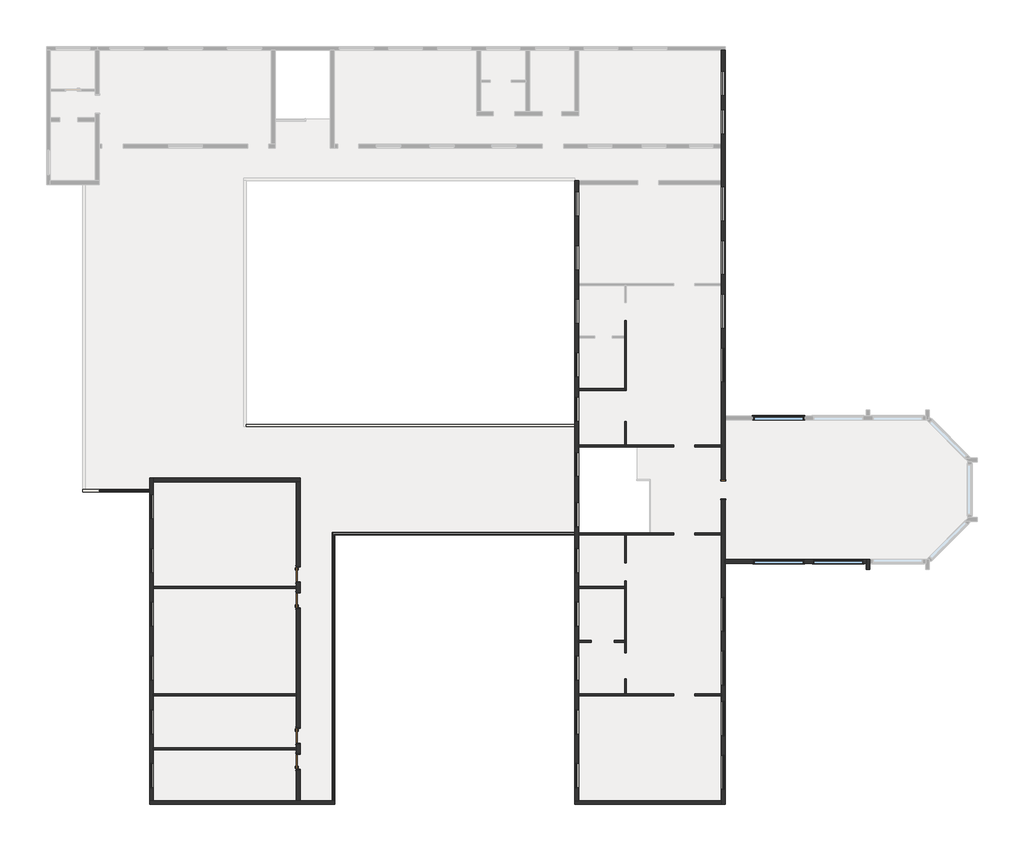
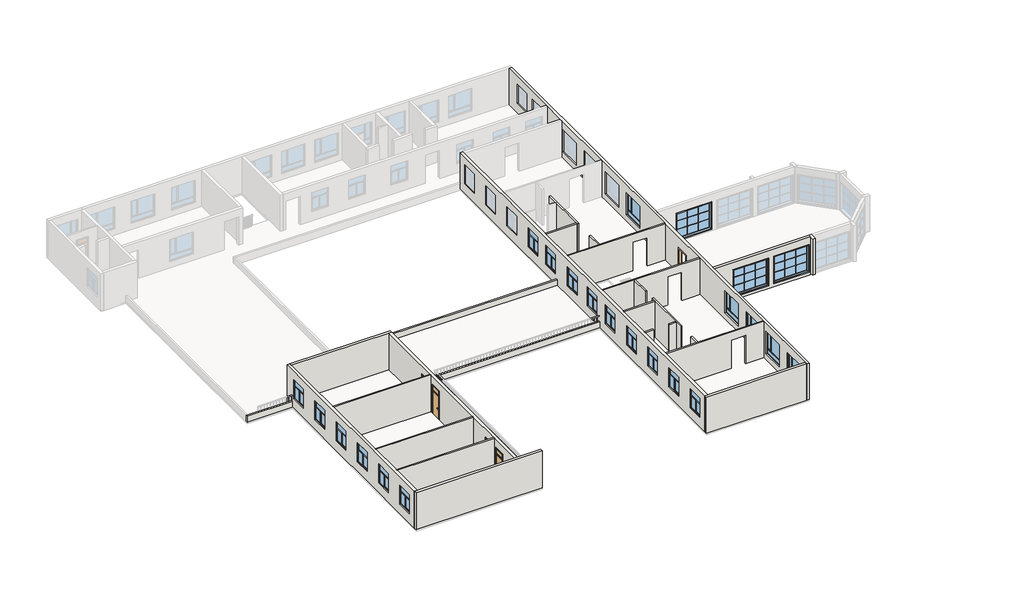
# One storey, part 1 of 4: 28 walls, 23 windows, 5 doors.
"""IFC4 building model written with IfcOpenShell, lengths in millimetres."""

from ifc_helpers import new_model, si_unit, frame, origin, place, context, project, spatial, polyline, outline, extrude, faceted_brep, transform, mapped, element, save
from components import door_b620a7e4, m1_645588ba, m1_8023598c, c1_07d47191, c2_05897f81, c3_245fb3e4

model = new_model("IFC4")

# Units and contexts
model_context = context("Model", 3, world=origin())
ifc_project = project(units=[si_unit("LENGTHUNIT", "METRE", prefix="MILLI")], contexts=[model_context])

# Site, building, storey
site = spatial("IfcSite", under=ifc_project)
building = spatial("IfcBuilding", under=site)
storey = spatial("IfcBuildingStorey", under=building, Name="二层", Elevation=3600.0)

# Doors
placement = place(None, origin())
door_shape = door_b620a7e4(model_context)
element("IfcDoor", 1, ObjectType="门洞 : MD2(洞口）", at=placement, inside=storey, context=model_context, shape_type="MappedRepresentation", body=[
    mapped(door_shape, transform((6129.7168608, -8520.7838385, 3600.0), x_axis=(0.0, 1.0, 0.0), y_axis=(-1.0, 0.0, 0.0), z_axis=(0.0, 0.0, 1.0))),
])
m1_shape = m1_645588ba(model_context)
element("IfcDoor", 2, ObjectType="单嵌板木门 13 : M1", at=placement, inside=storey, context=model_context, shape_type="MappedRepresentation", body=[
    mapped(m1_shape, transform((-19950.2831392, -25213.7838385, 3600.0), x_axis=(0.0, 1.0, 0.0), y_axis=(-1.0, 0.0, 0.0), z_axis=(0.0, 0.0, 1.0))),
])
element("IfcDoor", 3, ObjectType="单嵌板木门 13 : M1", at=placement, inside=storey, context=model_context, shape_type="MappedRepresentation", body=[
    mapped(m1_shape, transform((-19950.2831392, -15313.7838385, 3600.0), x_axis=(0.0, 1.0, 0.0), y_axis=(-1.0, 0.0, 0.0), z_axis=(0.0, 0.0, 1.0))),
])
m1_2_shape = m1_8023598c(model_context)
element("IfcDoor", 4, ObjectType="单嵌板木门 13 : M1", at=placement, inside=storey, context=model_context, shape_type="MappedRepresentation", body=[
    mapped(m1_2_shape, transform((-19950.2831392, -23613.7838385, 3600.0), x_axis=(0.0, -1.0, 0.0), y_axis=(1.0, 0.0, 0.0), z_axis=(0.0, 0.0, 1.0))),
])
element("IfcDoor", 5, ObjectType="单嵌板木门 13 : M1", at=placement, inside=storey, context=model_context, shape_type="MappedRepresentation", body=[
    mapped(m1_2_shape, transform((-19950.2831392, -13713.7838385, 3600.0), x_axis=(0.0, -1.0, 0.0), y_axis=(1.0, 0.0, 0.0), z_axis=(0.0, 0.0, 1.0))),
])

# Walls
element("IfcWall", 6, ObjectType="墙", at=placement, inside=storey, context=model_context, shape_type="Brep", body=[
    faceted_brep([(-29070.2831392, -27833.7838385, 3600.0), (-17710.2831392, -27833.7838385, 3600.0), (-17710.2831392, -27833.7838385, 7100.0), (-29070.2831392, -27833.7838385, 7100.0), (-17710.2831392, -27593.7838385, 3600.0), (-19830.2831392, -27593.7838385, 3600.0), (-20070.2831392, -27593.7838385, 3600.0), (-28830.2831392, -27593.7838385, 3600.0), (-29070.2831392, -27593.7838385, 3600.0), (-29070.2831392, -27593.7838385, 7100.0), (-28830.2831392, -27593.7838385, 7100.0), (-17710.2831392, -27593.7838385, 7100.0)], [[[0, 1, 2, 3]], [[4, 5, 6, 7, 8, 9, 10, 11]], [[1, 0, 8, 7, 6, 5, 4]], [[1, 4, 11, 2]], [[8, 0, 3, 9]], [[3, 2, 11, 10, 9]]]),
])
element("IfcWall", 7, ObjectType="墙", at=placement, inside=storey, context=model_context, shape_type="Brep", body=[
    faceted_brep([(-28830.2831392, -27593.7838385, 3600.0), (-28830.2831392, -24473.7838385, 3600.0), (-28830.2831392, -24353.7838385, 3600.0), (-28830.2831392, -21173.7838385, 3600.0), (-28830.2831392, -21053.7838385, 3600.0), (-28830.2831392, -14573.7838385, 3600.0), (-28830.2831392, -14453.7838385, 3600.0), (-28830.2831392, -8033.7838385, 3600.0), (-28830.2831392, -7793.7838385, 3600.0), (-28830.2831392, -7793.7838385, 7050.0), (-28830.2831392, -7793.7838385, 7100.0), (-28830.2831392, -27593.7838385, 7100.0), (-28830.2831392, -26813.7838385, 4500.0), (-28830.2831392, -26813.7838385, 6300.0), (-28830.2831392, -25313.7838385, 6300.0), (-28830.2831392, -25313.7838385, 4500.0), (-28830.2831392, -23513.7838385, 4500.0), (-28830.2831392, -23513.7838385, 6300.0), (-28830.2831392, -22013.7838385, 6300.0), (-28830.2831392, -22013.7838385, 4500.0), (-28830.2831392, -20213.7838385, 4500.0), (-28830.2831392, -20213.7838385, 6300.0), (-28830.2831392, -18713.7838385, 6300.0), (-28830.2831392, -18713.7838385, 4500.0), (-28830.2831392, -16913.7838385, 4500.0), (-28830.2831392, -16913.7838385, 6300.0), (-28830.2831392, -15413.7838385, 6300.0), (-28830.2831392, -15413.7838385, 4500.0), (-28830.2831392, -13613.7838385, 4500.0), (-28830.2831392, -13613.7838385, 6300.0), (-28830.2831392, -12113.7838385, 6300.0), (-28830.2831392, -12113.7838385, 4500.0), (-28830.2831392, -10313.7838385, 4500.0), (-28830.2831392, -10313.7838385, 6300.0), (-28830.2831392, -8813.7838385, 6300.0), (-28830.2831392, -8813.7838385, 4500.0), (-29070.2831392, -7793.7838385, 3600.0), (-29070.2831392, -8033.7838385, 3600.0), (-29070.2831392, -27593.7838385, 3600.0), (-29070.2831392, -27593.7838385, 7050.0), (-29070.2831392, -27593.7838385, 7100.0), (-29070.2831392, -7793.7838385, 7100.0), (-29070.2831392, -26813.7838385, 6300.0), (-29070.2831392, -26813.7838385, 4500.0), (-29070.2831392, -25313.7838385, 4500.0), (-29070.2831392, -25313.7838385, 6300.0), (-29070.2831392, -23513.7838385, 6300.0), (-29070.2831392, -23513.7838385, 4500.0), (-29070.2831392, -22013.7838385, 4500.0), (-29070.2831392, -22013.7838385, 6300.0), (-29070.2831392, -20213.7838385, 6300.0), (-29070.2831392, -20213.7838385, 4500.0), (-29070.2831392, -18713.7838385, 4500.0), (-29070.2831392, -18713.7838385, 6300.0), (-29070.2831392, -16913.7838385, 6300.0), (-29070.2831392, -16913.7838385, 4500.0), (-29070.2831392, -15413.7838385, 4500.0), (-29070.2831392, -15413.7838385, 6300.0), (-29070.2831392, -13613.7838385, 6300.0), (-29070.2831392, -13613.7838385, 4500.0), (-29070.2831392, -12113.7838385, 4500.0), (-29070.2831392, -12113.7838385, 6300.0), (-29070.2831392, -10313.7838385, 6300.0), (-29070.2831392, -10313.7838385, 4500.0), (-29070.2831392, -8813.7838385, 4500.0), (-29070.2831392, -8813.7838385, 6300.0)], [[[0, 1, 2, 3, 4, 5, 6, 7, 8, 9, 10, 11], [12, 13, 14, 15], [16, 17, 18, 19], [20, 21, 22, 23], [24, 25, 26, 27], [28, 29, 30, 31], [32, 33, 34, 35]], [[36, 37, 38, 39, 40, 41], [42, 43, 44, 45], [46, 47, 48, 49], [50, 51, 52, 53], [54, 55, 56, 57], [58, 59, 60, 61], [62, 63, 64, 65]], [[8, 7, 6, 5, 4, 3, 2, 1, 0, 38, 37, 36]], [[13, 12, 43, 42]], [[14, 13, 42, 45]], [[15, 14, 45, 44]], [[12, 15, 44, 43]], [[17, 16, 47, 46]], [[18, 17, 46, 49]], [[19, 18, 49, 48]], [[16, 19, 48, 47]], [[21, 20, 51, 50]], [[22, 21, 50, 53]], [[23, 22, 53, 52]], [[20, 23, 52, 51]], [[25, 24, 55, 54]], [[26, 25, 54, 57]], [[27, 26, 57, 56]], [[24, 27, 56, 55]], [[29, 28, 59, 58]], [[30, 29, 58, 61]], [[31, 30, 61, 60]], [[28, 31, 60, 59]], [[33, 32, 63, 62]], [[34, 33, 62, 65]], [[35, 34, 65, 64]], [[32, 35, 64, 63]], [[38, 0, 11, 40, 39]], [[8, 36, 41, 10, 9]], [[11, 10, 41, 40]]]),
])
element("IfcWall", 8, ObjectType="墙", at=placement, inside=storey, context=model_context, shape_type="Brep", body=[
    faceted_brep([(6249.7168608, -7920.7838385, 3600.0), (6249.7168608, 18456.2161615, 3600.0), (6249.7168608, 18456.2161615, 7050.0), (6249.7168608, -27833.7838385, 7050.0), (6249.7168608, -27833.7838385, 3600.0), (6249.7168608, -9120.7838385, 3600.0), (6249.7168608, -9120.7838385, 6000.0), (6249.7168608, -7920.7838385, 6000.0), (6249.7168608, 17176.2161615, 6300.0), (6249.7168608, 17176.2161615, 4500.0), (6249.7168608, 15676.2161615, 4500.0), (6249.7168608, 15676.2161615, 6300.0), (6249.7168608, 14826.2161615, 6300.0), (6249.7168608, 14826.2161615, 4500.0), (6249.7168608, 13326.2161615, 4500.0), (6249.7168608, 13326.2161615, 6300.0), (6249.7168608, -24813.7838385, 6300.0), (6249.7168608, -24813.7838385, 4200.0), (6249.7168608, -26913.7838385, 4200.0), (6249.7168608, -26913.7838385, 6300.0), (6249.7168608, -21513.7838385, 6300.0), (6249.7168608, -21513.7838385, 4200.0), (6249.7168608, -23613.7838385, 4200.0), (6249.7168608, -23613.7838385, 6300.0), (6249.7168608, -18413.7838385, 6300.0), (6249.7168608, -18413.7838385, 4200.0), (6249.7168608, -20513.7838385, 4200.0), (6249.7168608, -20513.7838385, 6300.0), (6249.7168608, -15113.7838385, 6300.0), (6249.7168608, -15113.7838385, 4200.0), (6249.7168608, -17213.7838385, 4200.0), (6249.7168608, -17213.7838385, 6300.0), (6249.7168608, 10086.2161615, 6300.0), (6249.7168608, 10086.2161615, 4200.0), (6249.7168608, 7986.2161615, 4200.0), (6249.7168608, 7986.2161615, 6300.0), (6249.7168608, 6786.2161615, 6300.0), (6249.7168608, 6786.2161615, 4200.0), (6249.7168608, 4686.2161615, 4200.0), (6249.7168608, 4686.2161615, 6300.0), (6249.7168608, 3486.2161615, 6300.0), (6249.7168608, 3486.2161615, 4200.0), (6249.7168608, 1386.2161615, 4200.0), (6249.7168608, 1386.2161615, 6300.0), (6249.7168608, 186.2161615, 6300.0), (6249.7168608, 186.2161615, 4200.0), (6249.7168608, -1913.7838385, 4200.0), (6249.7168608, -1913.7838385, 6300.0), (6009.7168608, 18456.2161615, 3600.0), (6009.7168608, 12696.2161615, 3600.0), (6009.7168608, 12456.2161615, 3600.0), (6009.7168608, 10466.2161615, 3600.0), (6009.7168608, 10226.2161615, 3600.0), (6009.7168608, 4146.2161615, 3600.0), (6009.7168608, 4026.2161615, 3600.0), (6009.7168608, -5753.7838385, 3600.0), (6009.7168608, -5873.7838385, 3600.0), (6009.7168608, -7920.7838385, 3600.0), (6009.7168608, -7920.7838385, 6000.0), (6009.7168608, -9120.7838385, 6000.0), (6009.7168608, -9120.7838385, 3600.0), (6009.7168608, -11153.7838385, 3600.0), (6009.7168608, -11273.7838385, 3600.0), (6009.7168608, -21053.7838385, 3600.0), (6009.7168608, -21173.7838385, 3600.0), (6009.7168608, -27593.7838385, 3600.0), (6009.7168608, -27833.7838385, 3600.0), (6009.7168608, -27833.7838385, 7050.0), (6009.7168608, -5873.7838385, 7050.0), (6009.7168608, -5753.7838385, 7050.0), (6009.7168608, 4026.2161615, 7050.0), (6009.7168608, 4146.2161615, 7050.0), (6009.7168608, 10226.2161615, 7050.0), (6009.7168608, 10466.2161615, 7050.0), (6009.7168608, 12456.2161615, 7050.0), (6009.7168608, 12696.2161615, 7050.0), (6009.7168608, 18456.2161615, 7050.0), (6009.7168608, 17176.2161615, 4500.0), (6009.7168608, 17176.2161615, 6300.0), (6009.7168608, 15676.2161615, 6300.0), (6009.7168608, 15676.2161615, 4500.0), (6009.7168608, 14826.2161615, 4500.0), (6009.7168608, 14826.2161615, 6300.0), (6009.7168608, 13326.2161615, 6300.0), (6009.7168608, 13326.2161615, 4500.0), (6009.7168608, -24813.7838385, 4200.0), (6009.7168608, -24813.7838385, 6300.0), (6009.7168608, -26913.7838385, 6300.0), (6009.7168608, -26913.7838385, 4200.0), (6009.7168608, -21513.7838385, 4200.0), (6009.7168608, -21513.7838385, 6300.0), (6009.7168608, -23613.7838385, 6300.0), (6009.7168608, -23613.7838385, 4200.0), (6009.7168608, -18413.7838385, 4200.0), (6009.7168608, -18413.7838385, 6300.0), (6009.7168608, -20513.7838385, 6300.0), (6009.7168608, -20513.7838385, 4200.0), (6009.7168608, -15113.7838385, 4200.0), (6009.7168608, -15113.7838385, 6300.0), (6009.7168608, -17213.7838385, 6300.0), (6009.7168608, -17213.7838385, 4200.0), (6009.7168608, 10086.2161615, 4200.0), (6009.7168608, 10086.2161615, 6300.0), (6009.7168608, 7986.2161615, 6300.0), (6009.7168608, 7986.2161615, 4200.0), (6009.7168608, 6786.2161615, 4200.0), (6009.7168608, 6786.2161615, 6300.0), (6009.7168608, 4686.2161615, 6300.0), (6009.7168608, 4686.2161615, 4200.0), (6009.7168608, 3486.2161615, 4200.0), (6009.7168608, 3486.2161615, 6300.0), (6009.7168608, 1386.2161615, 6300.0), (6009.7168608, 1386.2161615, 4200.0), (6009.7168608, 186.2161615, 4200.0), (6009.7168608, 186.2161615, 6300.0), (6009.7168608, -1913.7838385, 6300.0), (6009.7168608, -1913.7838385, 4200.0)], [[[0, 1, 2, 3, 4, 5, 6, 7], [8, 9, 10, 11], [12, 13, 14, 15], [16, 17, 18, 19], [20, 21, 22, 23], [24, 25, 26, 27], [28, 29, 30, 31], [32, 33, 34, 35], [36, 37, 38, 39], [40, 41, 42, 43], [44, 45, 46, 47]], [[48, 49, 50, 51, 52, 53, 54, 55, 56, 57, 58, 59, 60, 61, 62, 63, 64, 65, 66, 67, 68, 69, 70, 71, 72, 73, 74, 75, 76], [77, 78, 79, 80], [81, 82, 83, 84], [85, 86, 87, 88], [89, 90, 91, 92], [93, 94, 95, 96], [97, 98, 99, 100], [101, 102, 103, 104], [105, 106, 107, 108], [109, 110, 111, 112], [113, 114, 115, 116]], [[4, 66, 65, 64, 63, 62, 61, 60, 5]], [[48, 1, 0, 57, 56, 55, 54, 53, 52, 51, 50, 49]], [[78, 77, 9, 8]], [[79, 78, 8, 11]], [[80, 79, 11, 10]], [[77, 80, 10, 9]], [[82, 81, 13, 12]], [[83, 82, 12, 15]], [[84, 83, 15, 14]], [[81, 84, 14, 13]], [[86, 85, 17, 16]], [[87, 86, 16, 19]], [[88, 87, 19, 18]], [[85, 88, 18, 17]], [[90, 89, 21, 20]], [[91, 90, 20, 23]], [[92, 91, 23, 22]], [[89, 92, 22, 21]], [[94, 93, 25, 24]], [[95, 94, 24, 27]], [[96, 95, 27, 26]], [[93, 96, 26, 25]], [[98, 97, 29, 28]], [[99, 98, 28, 31]], [[100, 99, 31, 30]], [[97, 100, 30, 29]], [[102, 101, 33, 32]], [[103, 102, 32, 35]], [[104, 103, 35, 34]], [[101, 104, 34, 33]], [[106, 105, 37, 36]], [[107, 106, 36, 39]], [[108, 107, 39, 38]], [[105, 108, 38, 37]], [[110, 109, 41, 40]], [[111, 110, 40, 43]], [[112, 111, 43, 42]], [[109, 112, 42, 41]], [[114, 113, 45, 44]], [[115, 114, 44, 47]], [[116, 115, 47, 46]], [[113, 116, 46, 45]], [[1, 48, 76, 2]], [[66, 4, 3, 67]], [[7, 58, 57, 0]], [[58, 7, 6, 59]], [[59, 6, 5, 60]], [[3, 2, 76, 75, 74, 73, 72, 71, 70, 69, 68, 67]]]),
])
element("IfcWall", 9, ObjectType="墙", at=placement, inside=storey, context=model_context, shape_type="Brep", body=[
    faceted_brep([(-28830.2831392, -8033.7838385, 3600.0), (-20070.2831392, -8033.7838385, 3600.0), (-19830.2831392, -8033.7838385, 3600.0), (-19830.2831392, -8033.7838385, 7050.0), (-19830.2831392, -8033.7838385, 7100.0), (-28830.2831392, -8033.7838385, 7100.0), (-19830.2831392, -7793.7838385, 3600.0), (-28830.2831392, -7793.7838385, 3600.0), (-28830.2831392, -7793.7838385, 7100.0), (-19830.2831392, -7793.7838385, 7100.0)], [[[0, 1, 2, 3, 4, 5]], [[6, 7, 8, 9]], [[2, 1, 0, 7, 6]], [[7, 0, 5, 8]], [[2, 6, 9, 4, 3]], [[5, 4, 9, 8]]]),
])
element("IfcWall", 10, ObjectType="墙", at=placement, inside=storey, context=model_context, shape_type="Brep", body=[
    faceted_brep([(-2990.2831392, -27833.7838385, 3600.0), (6009.7168608, -27833.7838385, 3600.0), (6009.7168608, -27833.7838385, 7050.0), (-2990.2831392, -27833.7838385, 7050.0), (6009.7168608, -27593.7838385, 3600.0), (-2750.2831392, -27593.7838385, 3600.0), (-2990.2831392, -27593.7838385, 3600.0), (-2990.2831392, -27593.7838385, 7050.0), (-2750.2831392, -27593.7838385, 7050.0), (6009.7168608, -27593.7838385, 7050.0)], [[[0, 1, 2, 3]], [[4, 5, 6, 7, 8, 9]], [[1, 0, 6, 5, 4]], [[1, 4, 9, 2]], [[6, 0, 3, 7]], [[3, 2, 9, 8, 7]]]),
])
element("IfcWall", 11, ObjectType="墙", at=placement, inside=storey, context=model_context, shape_type="Brep", body=[
    faceted_brep([(-2750.2831392, -27593.7838385, 3600.0), (-2750.2831392, -21173.7838385, 3600.0), (-2750.2831392, -21053.7838385, 3600.0), (-2750.2831392, -17873.7838385, 3600.0), (-2750.2831392, -17753.7838385, 3600.0), (-2750.2831392, -14573.7838385, 3600.0), (-2750.2831392, -14453.7838385, 3600.0), (-2750.2831392, -11273.7838385, 3600.0), (-2750.2831392, -11153.7838385, 3600.0), (-2750.2831392, -5873.7838385, 3600.0), (-2750.2831392, -5753.7838385, 3600.0), (-2750.2831392, -2433.7838385, 3600.0), (-2750.2831392, -2313.7838385, 3600.0), (-2750.2831392, 796.2161615, 3600.0), (-2750.2831392, 916.2161615, 3600.0), (-2750.2831392, 4026.2161615, 3600.0), (-2750.2831392, 4146.2161615, 3600.0), (-2750.2831392, 10226.2161615, 3600.0), (-2750.2831392, 10466.2161615, 3600.0), (-2750.2831392, 10466.2161615, 7050.0), (-2750.2831392, 10226.2161615, 7050.0), (-2750.2831392, 4146.2161615, 7050.0), (-2750.2831392, 4026.2161615, 7050.0), (-2750.2831392, 916.2161615, 7050.0), (-2750.2831392, 796.2161615, 7050.0), (-2750.2831392, -2313.7838385, 7050.0), (-2750.2831392, -2433.7838385, 7050.0), (-2750.2831392, -5753.7838385, 7050.0), (-2750.2831392, -5873.7838385, 7050.0), (-2750.2831392, -11153.7838385, 7050.0), (-2750.2831392, -11273.7838385, 7050.0), (-2750.2831392, -14453.7838385, 7050.0), (-2750.2831392, -14573.7838385, 7050.0), (-2750.2831392, -17753.7838385, 7050.0), (-2750.2831392, -17873.7838385, 7050.0), (-2750.2831392, -21053.7838385, 7050.0), (-2750.2831392, -21173.7838385, 7050.0), (-2750.2831392, -27593.7838385, 7050.0), (-2750.2831392, -26813.7838385, 4500.0), (-2750.2831392, -26813.7838385, 6300.0), (-2750.2831392, -25313.7838385, 6300.0), (-2750.2831392, -25313.7838385, 4500.0), (-2750.2831392, -23513.7838385, 4500.0), (-2750.2831392, -23513.7838385, 6300.0), (-2750.2831392, -22013.7838385, 6300.0), (-2750.2831392, -22013.7838385, 4500.0), (-2750.2831392, -20213.7838385, 4500.0), (-2750.2831392, -20213.7838385, 6300.0), (-2750.2831392, -18713.7838385, 6300.0), (-2750.2831392, -18713.7838385, 4500.0), (-2750.2831392, -16913.7838385, 4500.0), (-2750.2831392, -16913.7838385, 6300.0), (-2750.2831392, -15413.7838385, 6300.0), (-2750.2831392, -15413.7838385, 4500.0), (-2750.2831392, -13613.7838385, 4500.0), (-2750.2831392, -13613.7838385, 6300.0), (-2750.2831392, -12113.7838385, 6300.0), (-2750.2831392, -12113.7838385, 4500.0), (-2750.2831392, 8286.2161615, 4500.0), (-2750.2831392, 8286.2161615, 6300.0), (-2750.2831392, 9786.2161615, 6300.0), (-2750.2831392, 9786.2161615, 4500.0), (-2750.2831392, 4986.2161615, 4500.0), (-2750.2831392, 4986.2161615, 6300.0), (-2750.2831392, 6486.2161615, 6300.0), (-2750.2831392, 6486.2161615, 4500.0), (-2750.2831392, 1686.2161615, 4500.0), (-2750.2831392, 1686.2161615, 6300.0), (-2750.2831392, 3186.2161615, 6300.0), (-2750.2831392, 3186.2161615, 4500.0), (-2750.2831392, -1593.7838385, 4500.0), (-2750.2831392, -1593.7838385, 6300.0), (-2750.2831392, -93.7838385, 6300.0), (-2750.2831392, -93.7838385, 4500.0), (-2750.2831392, -4313.7838385, 4500.0), (-2750.2831392, -4313.7838385, 6300.0), (-2750.2831392, -2813.7838385, 6300.0), (-2750.2831392, -2813.7838385, 4500.0), (-2750.2831392, -10808.7838385, 4500.0), (-2750.2831392, -10808.7838385, 6300.0), (-2750.2831392, -9308.7838385, 6300.0), (-2750.2831392, -9308.7838385, 4500.0), (-2750.2831392, -7713.7838385, 4500.0), (-2750.2831392, -7713.7838385, 6300.0), (-2750.2831392, -6213.7838385, 6300.0), (-2750.2831392, -6213.7838385, 4500.0), (-2990.2831392, 10466.2161615, 3600.0), (-2990.2831392, -11123.7838385, 3600.0), (-2990.2831392, -11273.7838385, 3600.0), (-2990.2831392, -27593.7838385, 3600.0), (-2990.2831392, -27593.7838385, 7050.0), (-2990.2831392, 10466.2161615, 7050.0), (-2990.2831392, -26813.7838385, 6300.0), (-2990.2831392, -26813.7838385, 4500.0), (-2990.2831392, -25313.7838385, 4500.0), (-2990.2831392, -25313.7838385, 6300.0), (-2990.2831392, -23513.7838385, 6300.0), (-2990.2831392, -23513.7838385, 4500.0), (-2990.2831392, -22013.7838385, 4500.0), (-2990.2831392, -22013.7838385, 6300.0), (-2990.2831392, -20213.7838385, 6300.0), (-2990.2831392, -20213.7838385, 4500.0), (-2990.2831392, -18713.7838385, 4500.0), (-2990.2831392, -18713.7838385, 6300.0), (-2990.2831392, -16913.7838385, 6300.0), (-2990.2831392, -16913.7838385, 4500.0), (-2990.2831392, -15413.7838385, 4500.0), (-2990.2831392, -15413.7838385, 6300.0), (-2990.2831392, -13613.7838385, 6300.0), (-2990.2831392, -13613.7838385, 4500.0), (-2990.2831392, -12113.7838385, 4500.0), (-2990.2831392, -12113.7838385, 6300.0), (-2990.2831392, 8286.2161615, 6300.0), (-2990.2831392, 8286.2161615, 4500.0), (-2990.2831392, 9786.2161615, 4500.0), (-2990.2831392, 9786.2161615, 6300.0), (-2990.2831392, 4986.2161615, 6300.0), (-2990.2831392, 4986.2161615, 4500.0), (-2990.2831392, 6486.2161615, 4500.0), (-2990.2831392, 6486.2161615, 6300.0), (-2990.2831392, 1686.2161615, 6300.0), (-2990.2831392, 1686.2161615, 4500.0), (-2990.2831392, 3186.2161615, 4500.0), (-2990.2831392, 3186.2161615, 6300.0), (-2990.2831392, -1593.7838385, 6300.0), (-2990.2831392, -1593.7838385, 4500.0), (-2990.2831392, -93.7838385, 4500.0), (-2990.2831392, -93.7838385, 6300.0), (-2990.2831392, -4313.7838385, 6300.0), (-2990.2831392, -4313.7838385, 4500.0), (-2990.2831392, -2813.7838385, 4500.0), (-2990.2831392, -2813.7838385, 6300.0), (-2990.2831392, -10808.7838385, 6300.0), (-2990.2831392, -10808.7838385, 4500.0), (-2990.2831392, -9308.7838385, 4500.0), (-2990.2831392, -9308.7838385, 6300.0), (-2990.2831392, -7713.7838385, 6300.0), (-2990.2831392, -7713.7838385, 4500.0), (-2990.2831392, -6213.7838385, 4500.0), (-2990.2831392, -6213.7838385, 6300.0)], [[[0, 1, 2, 3, 4, 5, 6, 7, 8, 9, 10, 11, 12, 13, 14, 15, 16, 17, 18, 19, 20, 21, 22, 23, 24, 25, 26, 27, 28, 29, 30, 31, 32, 33, 34, 35, 36, 37], [38, 39, 40, 41], [42, 43, 44, 45], [46, 47, 48, 49], [50, 51, 52, 53], [54, 55, 56, 57], [58, 59, 60, 61], [62, 63, 64, 65], [66, 67, 68, 69], [70, 71, 72, 73], [74, 75, 76, 77], [78, 79, 80, 81], [82, 83, 84, 85]], [[86, 87, 88, 89, 90, 91], [92, 93, 94, 95], [96, 97, 98, 99], [100, 101, 102, 103], [104, 105, 106, 107], [108, 109, 110, 111], [112, 113, 114, 115], [116, 117, 118, 119], [120, 121, 122, 123], [124, 125, 126, 127], [128, 129, 130, 131], [132, 133, 134, 135], [136, 137, 138, 139]], [[18, 17, 16, 15, 14, 13, 12, 11, 10, 9, 8, 7, 6, 5, 4, 3, 2, 1, 0, 89, 88, 87, 86]], [[39, 38, 93, 92]], [[40, 39, 92, 95]], [[41, 40, 95, 94]], [[38, 41, 94, 93]], [[43, 42, 97, 96]], [[44, 43, 96, 99]], [[45, 44, 99, 98]], [[42, 45, 98, 97]], [[47, 46, 101, 100]], [[48, 47, 100, 103]], [[49, 48, 103, 102]], [[46, 49, 102, 101]], [[51, 50, 105, 104]], [[52, 51, 104, 107]], [[53, 52, 107, 106]], [[50, 53, 106, 105]], [[55, 54, 109, 108]], [[56, 55, 108, 111]], [[57, 56, 111, 110]], [[54, 57, 110, 109]], [[59, 58, 113, 112]], [[60, 59, 112, 115]], [[61, 60, 115, 114]], [[58, 61, 114, 113]], [[63, 62, 117, 116]], [[64, 63, 116, 119]], [[65, 64, 119, 118]], [[62, 65, 118, 117]], [[67, 66, 121, 120]], [[68, 67, 120, 123]], [[69, 68, 123, 122]], [[66, 69, 122, 121]], [[71, 70, 125, 124]], [[72, 71, 124, 127]], [[73, 72, 127, 126]], [[70, 73, 126, 125]], [[75, 74, 129, 128]], [[76, 75, 128, 131]], [[77, 76, 131, 130]], [[74, 77, 130, 129]], [[89, 0, 37, 90]], [[18, 86, 91, 19]], [[79, 78, 133, 132]], [[80, 79, 132, 135]], [[81, 80, 135, 134]], [[78, 81, 134, 133]], [[83, 82, 137, 136]], [[84, 83, 136, 139]], [[85, 84, 139, 138]], [[82, 85, 138, 137]], [[37, 36, 35, 34, 33, 32, 31, 30, 29, 28, 27, 26, 25, 24, 23, 22, 21, 20, 19, 91, 90]]]),
])
element("IfcWall", 12, ObjectType="隔墙", at=placement, inside=storey, context=model_context, shape_type="Brep", body=[
    faceted_brep([(3079.7168608, -11153.7838385, 6300.0), (3079.7168608, -11153.7838385, 3600.0), (-2750.2831392, -11153.7838385, 3600.0), (-2750.2831392, -11153.7838385, 7050.0), (6009.7168608, -11153.7838385, 7050.0), (6009.7168608, -11153.7838385, 3600.0), (4379.7168608, -11153.7838385, 3600.0), (4379.7168608, -11153.7838385, 6300.0), (3079.7168608, -11273.7838385, 3600.0), (3079.7168608, -11273.7838385, 6300.0), (4379.7168608, -11273.7838385, 6300.0), (4379.7168608, -11273.7838385, 3600.0), (6009.7168608, -11273.7838385, 3600.0), (6009.7168608, -11273.7838385, 7050.0), (-2750.2831392, -11273.7838385, 7050.0), (-2750.2831392, -11273.7838385, 3600.0), (69.7168608, -11273.7838385, 3600.0), (189.7168608, -11273.7838385, 3600.0)], [[[0, 1, 2, 3, 4, 5, 6, 7]], [[8, 9, 10, 11, 12, 13, 14, 15, 16, 17]], [[5, 12, 11, 6]], [[1, 8, 17, 16, 15, 2]], [[12, 5, 4, 13]], [[0, 9, 8, 1]], [[9, 0, 7, 10]], [[10, 7, 6, 11]], [[2, 15, 14, 3]], [[4, 3, 14, 13]]]),
])
element("IfcWall", 13, ObjectType="墙", at=placement, inside=storey, context=model_context, shape_type="Brep", body=[
    faceted_brep([(-20070.2831392, -24113.7838385, 6300.0), (-20070.2831392, -24113.7838385, 3600.0), (-20070.2831392, -24353.7838385, 3600.0), (-20070.2831392, -24473.7838385, 3600.0), (-20070.2831392, -24713.7838385, 3600.0), (-20070.2831392, -24713.7838385, 6300.0), (-20070.2831392, -25713.7838385, 6300.0), (-20070.2831392, -25713.7838385, 3600.0), (-20070.2831392, -27593.7838385, 3600.0), (-20070.2831392, -27593.7838385, 7100.0), (-20070.2831392, -8033.7838385, 7100.0), (-20070.2831392, -8033.7838385, 3600.0), (-20070.2831392, -13213.7838385, 3600.0), (-20070.2831392, -13213.7838385, 6300.0), (-20070.2831392, -14213.7838385, 6300.0), (-20070.2831392, -14213.7838385, 3600.0), (-20070.2831392, -14453.7838385, 3600.0), (-20070.2831392, -14573.7838385, 3600.0), (-20070.2831392, -14813.7838385, 3600.0), (-20070.2831392, -14813.7838385, 6300.0), (-20070.2831392, -15813.7838385, 6300.0), (-20070.2831392, -15813.7838385, 3600.0), (-20070.2831392, -21053.7838385, 3600.0), (-20070.2831392, -21173.7838385, 3600.0), (-20070.2831392, -23113.7838385, 3600.0), (-20070.2831392, -23113.7838385, 6300.0), (-19830.2831392, -24113.7838385, 3600.0), (-19830.2831392, -24113.7838385, 6300.0), (-19830.2831392, -23113.7838385, 6300.0), (-19830.2831392, -23113.7838385, 3600.0), (-19830.2831392, -15813.7838385, 3600.0), (-19830.2831392, -15813.7838385, 6300.0), (-19830.2831392, -14813.7838385, 6300.0), (-19830.2831392, -14813.7838385, 3600.0), (-19830.2831392, -14213.7838385, 3600.0), (-19830.2831392, -14213.7838385, 6300.0), (-19830.2831392, -13213.7838385, 6300.0), (-19830.2831392, -13213.7838385, 3600.0), (-19830.2831392, -8033.7838385, 3600.0), (-19830.2831392, -8033.7838385, 7100.0), (-19830.2831392, -27593.7838385, 7100.0), (-19830.2831392, -27593.7838385, 3600.0), (-19830.2831392, -25713.7838385, 3600.0), (-19830.2831392, -25713.7838385, 6300.0), (-19830.2831392, -24713.7838385, 6300.0), (-19830.2831392, -24713.7838385, 3600.0)], [[[0, 1, 2, 3, 4, 5, 6, 7, 8, 9, 10, 11, 12, 13, 14, 15, 16, 17, 18, 19, 20, 21, 22, 23, 24, 25]], [[26, 27, 28, 29, 30, 31, 32, 33, 34, 35, 36, 37, 38, 39, 40, 41, 42, 43, 44, 45]], [[41, 8, 7, 42]], [[1, 26, 45, 4, 3, 2]], [[29, 24, 23, 22, 21, 30]], [[33, 18, 17, 16, 15, 34]], [[12, 11, 38, 37]], [[8, 41, 40, 9]], [[0, 27, 26, 1]], [[27, 0, 25, 28]], [[28, 25, 24, 29]], [[44, 5, 4, 45]], [[5, 44, 43, 6]], [[6, 43, 42, 7]], [[32, 19, 18, 33]], [[19, 32, 31, 20]], [[20, 31, 30, 21]], [[14, 35, 34, 15]], [[35, 14, 13, 36]], [[36, 13, 12, 37]], [[38, 11, 10, 39]], [[10, 9, 40, 39]]]),
])
element("IfcWall", 14, ObjectType="墙", at=placement, inside=storey, context=model_context, shape_type="Brep", body=[
    faceted_brep([(6249.7168608, -13043.7838385, 3450.0), (14887.7168608, -13043.7838385, 3450.0), (14887.7168608, -13043.7838385, 3600.0), (14887.7168608, -13043.7838385, 7050.0), (6249.7168608, -13043.7838385, 7050.0), (14720.7168608, -13043.7838385, 6300.0), (14720.7168608, -13043.7838385, 3800.0), (11640.7168608, -13043.7838385, 3800.0), (11640.7168608, -13043.7838385, 6300.0), (11066.7168608, -13043.7838385, 6300.0), (11066.7168608, -13043.7838385, 3800.0), (7986.7168608, -13043.7838385, 3800.0), (7986.7168608, -13043.7838385, 6300.0), (14718.0112333, -12803.7838385, 3450.0), (6249.7168608, -12803.7838385, 3450.0), (6249.7168608, -12803.7838385, 7050.0), (14887.7168608, -12803.7838385, 7050.0), (14887.7168608, -12803.7838385, 3600.0), (14718.0112333, -12803.7838385, 3600.0), (14720.7168608, -12803.7838385, 3800.0), (14720.7168608, -12803.7838385, 6300.0), (11640.7168608, -12803.7838385, 6300.0), (11640.7168608, -12803.7838385, 3800.0), (11066.7168608, -12803.7838385, 3800.0), (11066.7168608, -12803.7838385, 6300.0), (7986.7168608, -12803.7838385, 6300.0), (7986.7168608, -12803.7838385, 3800.0), (14887.7168608, -12973.4894659, 3450.0), (14887.7168608, -12973.4894659, 3600.0)], [[[0, 1, 2, 3, 4], [5, 6, 7, 8], [9, 10, 11, 12]], [[13, 14, 15, 16, 17, 18], [19, 20, 21, 22], [23, 24, 25, 26]], [[1, 0, 14, 13, 27]], [[14, 0, 4, 15]], [[27, 13, 18, 28]], [[6, 5, 20, 19]], [[7, 6, 19, 22]], [[8, 7, 22, 21]], [[5, 8, 21, 20]], [[10, 9, 24, 23]], [[11, 10, 23, 26]], [[12, 11, 26, 25]], [[9, 12, 25, 24]], [[18, 17, 28]], [[1, 27, 28, 2]], [[28, 17, 16, 3, 2]], [[4, 3, 16, 15]]]),
])
element("IfcWall", 15, ObjectType="墙", at=placement, inside=storey, context=model_context, shape_type="Brep", body=[
    faceted_brep([(14887.7168608, -12803.7838385, 3600.0), (14887.7168608, -12973.4894659, 3600.0), (14887.7168608, -13403.7838385, 3600.0), (14887.7168608, -13403.7838385, 7050.0), (14887.7168608, -13043.7838385, 7050.0), (14887.7168608, -12803.7838385, 7050.0), (15127.7168608, -13403.7838385, 3600.0), (15127.7168608, -13043.7838385, 3600.0), (15127.7168608, -12874.078211, 3600.0), (15127.7168608, -12803.7838385, 3600.0), (15127.7168608, -12803.7838385, 7050.0), (15127.7168608, -13403.7838385, 7050.0), (15057.4224883, -12803.7838385, 3600.0)], [[[0, 1, 2, 3, 4, 5]], [[6, 7, 8, 9, 10, 11]], [[2, 1, 0, 12, 9, 8, 7, 6]], [[2, 6, 11, 3]], [[9, 12, 0, 5, 10]], [[5, 4, 3, 11, 10]]]),
])
element("IfcWall", 16, ObjectType="隔墙", at=placement, inside=storey, context=model_context, shape_type="Brep", body=[
    faceted_brep([(4379.7168608, -5873.7838385, 3600.0), (6009.7168608, -5873.7838385, 3600.0), (6009.7168608, -5873.7838385, 7050.0), (-2750.2831392, -5873.7838385, 7050.0), (-2750.2831392, -5873.7838385, 3600.0), (3079.7168608, -5873.7838385, 3600.0), (3079.7168608, -5873.7838385, 6300.0), (4379.7168608, -5873.7838385, 6300.0), (6009.7168608, -5753.7838385, 3600.0), (4379.7168608, -5753.7838385, 3600.0), (4379.7168608, -5753.7838385, 6300.0), (3079.7168608, -5753.7838385, 6300.0), (3079.7168608, -5753.7838385, 3600.0), (189.7168608, -5753.7838385, 3600.0), (69.7168608, -5753.7838385, 3600.0), (-2750.2831392, -5753.7838385, 3600.0), (-2750.2831392, -5753.7838385, 7050.0), (69.7168608, -5753.7838385, 7050.0), (189.7168608, -5753.7838385, 7050.0), (6009.7168608, -5753.7838385, 7050.0)], [[[0, 1, 2, 3, 4, 5, 6, 7]], [[8, 9, 10, 11, 12, 13, 14, 15, 16, 17, 18, 19]], [[4, 15, 14, 13, 12, 5]], [[8, 1, 0, 9]], [[1, 8, 19, 2]], [[15, 4, 3, 16]], [[7, 10, 9, 0]], [[10, 7, 6, 11]], [[11, 6, 5, 12]], [[3, 2, 19, 18, 17, 16]]]),
])
element("IfcWall", 17, ObjectType="隔墙", at=placement, inside=storey, context=model_context, shape_type="SweptSolid", body=[
    extrude(outline(polyline([(69.7168608, -2433.7838385), (-2750.2831392, -2433.7838385), (-2750.2831392, -2313.7838385), (69.7168608, -2313.7838385), (69.7168608, -2433.7838385)])), frame((0.0, 0.0, 3600.0), z_axis=(0.0, 0.0, 1.0), x_axis=(1.0, 0.0, 0.0)), (0.0, 0.0, 1.0), 3450.0),
])
element("IfcWall", 18, ObjectType="隔墙", at=placement, inside=storey, context=model_context, shape_type="Brep", body=[
    faceted_brep([(-2750.2831392, -21173.7838385, 3600.0), (3079.7168608, -21173.7838385, 3600.0), (3079.7168608, -21173.7838385, 6300.0), (4379.7168608, -21173.7838385, 6300.0), (4379.7168608, -21173.7838385, 3600.0), (6009.7168608, -21173.7838385, 3600.0), (6009.7168608, -21173.7838385, 7050.0), (-2750.2831392, -21173.7838385, 7050.0), (3079.7168608, -21053.7838385, 3600.0), (189.7168608, -21053.7838385, 3600.0), (69.7168608, -21053.7838385, 3600.0), (-2750.2831392, -21053.7838385, 3600.0), (-2750.2831392, -21053.7838385, 7050.0), (6009.7168608, -21053.7838385, 7050.0), (6009.7168608, -21053.7838385, 3600.0), (4379.7168608, -21053.7838385, 3600.0), (4379.7168608, -21053.7838385, 6300.0), (3079.7168608, -21053.7838385, 6300.0)], [[[0, 1, 2, 3, 4, 5, 6, 7]], [[8, 9, 10, 11, 12, 13, 14, 15, 16, 17]], [[0, 11, 10, 9, 8, 1]], [[14, 5, 4, 15]], [[5, 14, 13, 6]], [[11, 0, 7, 12]], [[17, 2, 1, 8]], [[2, 17, 16, 3]], [[3, 16, 15, 4]], [[7, 6, 13, 12]]]),
])
element("IfcWall", 19, ObjectType="隔墙", at=placement, inside=storey, context=model_context, shape_type="SweptSolid", body=[
    extrude(outline(polyline([(189.7168608, -20113.7838385), (189.7168608, -21053.7838385), (69.7168608, -21053.7838385), (69.7168608, -20113.7838385), (189.7168608, -20113.7838385)])), frame((0.0, 0.0, 3600.0), z_axis=(0.0, 0.0, 1.0), x_axis=(1.0, 0.0, 0.0)), (0.0, 0.0, 1.0), 3450.0),
])
element("IfcWall", 20, ObjectType="隔墙", at=placement, inside=storey, context=model_context, shape_type="SweptSolid", body=[
    extrude(outline(polyline([(69.7168608, -14573.7838385), (-2750.2831392, -14573.7838385), (-2750.2831392, -14453.7838385), (69.7168608, -14453.7838385), (69.7168608, -14573.7838385)])), frame((0.0, 0.0, 3600.0), z_axis=(0.0, 0.0, 1.0), x_axis=(1.0, 0.0, 0.0)), (0.0, 0.0, 1.0), 3450.0),
])
element("IfcWall", 21, ObjectType="隔墙", at=placement, inside=storey, context=model_context, shape_type="SweptSolid", body=[
    extrude(outline(polyline([(-1970.2831392, -17873.7838385), (-2750.2831392, -17873.7838385), (-2750.2831392, -17753.7838385), (-1970.2831392, -17753.7838385), (-1970.2831392, -17873.7838385)])), frame((0.0, 0.0, 3600.0), z_axis=(0.0, 0.0, 1.0), x_axis=(1.0, 0.0, 0.0)), (0.0, 0.0, 1.0), 3450.0),
])
element("IfcWall", 22, ObjectType="隔墙", at=placement, inside=storey, context=model_context, shape_type="SweptSolid", body=[
    extrude(outline(polyline([(69.7168608, -17873.7838385), (-570.2831392, -17873.7838385), (-570.2831392, -17753.7838385), (69.7168608, -17753.7838385), (69.7168608, -17873.7838385)])), frame((0.0, 0.0, 3600.0), z_axis=(0.0, 0.0, 1.0), x_axis=(1.0, 0.0, 0.0)), (0.0, 0.0, 1.0), 3450.0),
])
element("IfcWall", 23, ObjectType="隔墙", at=placement, inside=storey, context=model_context, shape_type="SweptSolid", body=[
    extrude(outline(polyline([(189.7168608, -11273.7838385), (189.7168608, -13013.7838385), (69.7168608, -13013.7838385), (69.7168608, -11273.7838385), (189.7168608, -11273.7838385)])), frame((0.0, 0.0, 3600.0), z_axis=(0.0, 0.0, 1.0), x_axis=(1.0, 0.0, 0.0)), (0.0, 0.0, 1.0), 3450.0),
])
element("IfcWall", 24, ObjectType="隔墙", at=placement, inside=storey, context=model_context, shape_type="Brep", body=[
    faceted_brep([(189.7168608, -18513.7838385, 3600.0), (189.7168608, -14113.7838385, 3600.0), (189.7168608, -14113.7838385, 7050.0), (189.7168608, -18513.7838385, 7050.0), (69.7168608, -14113.7838385, 3600.0), (69.7168608, -14453.7838385, 3600.0), (69.7168608, -14573.7838385, 3600.0), (69.7168608, -17753.7838385, 3600.0), (69.7168608, -17873.7838385, 3600.0), (69.7168608, -18513.7838385, 3600.0), (69.7168608, -18513.7838385, 7050.0), (69.7168608, -14113.7838385, 7050.0)], [[[0, 1, 2, 3]], [[4, 5, 6, 7, 8, 9, 10, 11]], [[1, 0, 9, 8, 7, 6, 5, 4]], [[1, 4, 11, 2]], [[9, 0, 3, 10]], [[3, 2, 11, 10]]]),
])
element("IfcWall", 25, ObjectType="隔墙", at=placement, inside=storey, context=model_context, shape_type="Brep", body=[
    faceted_brep([(69.7168608, 1886.2161615, 3600.0), (69.7168608, 916.2161615, 3600.0), (69.7168608, 796.2161615, 3600.0), (69.7168608, -2313.7838385, 3600.0), (69.7168608, -2433.7838385, 3600.0), (69.7168608, -2433.7838385, 7050.0), (69.7168608, 1886.2161615, 7050.0), (189.7168608, -2433.7838385, 3600.0), (189.7168608, 1886.2161615, 3600.0), (189.7168608, 1886.2161615, 7050.0), (189.7168608, -2433.7838385, 7050.0)], [[[0, 1, 2, 3, 4, 5, 6]], [[7, 8, 9, 10]], [[4, 3, 2, 1, 0, 8, 7]], [[8, 0, 6, 9]], [[4, 7, 10, 5]], [[6, 5, 10, 9]]]),
])
element("IfcWall", 26, ObjectType="隔墙", at=placement, inside=storey, context=model_context, shape_type="SweptSolid", body=[
    extrude(outline(polyline([(69.7168608, -5753.7838385), (69.7168608, -4313.7838385), (189.7168608, -4313.7838385), (189.7168608, -5753.7838385), (69.7168608, -5753.7838385)])), frame((0.0, 0.0, 3600.0), z_axis=(0.0, 0.0, 1.0), x_axis=(1.0, 0.0, 0.0)), (0.0, 0.0, 1.0), 3450.0),
])
element("IfcWall", 27, ObjectType="隔墙", at=placement, inside=storey, context=model_context, shape_type="SweptSolid", body=[
    extrude(outline(polyline([(-20070.2831392, -24473.7838385), (-28830.2831392, -24473.7838385), (-28830.2831392, -24353.7838385), (-20070.2831392, -24353.7838385), (-20070.2831392, -24473.7838385)])), frame((0.0, 0.0, 3600.0), z_axis=(0.0, 0.0, 1.0), x_axis=(1.0, 0.0, 0.0)), (0.0, 0.0, 1.0), 3500.0),
])
element("IfcWall", 28, ObjectType="隔墙", at=placement, inside=storey, context=model_context, shape_type="SweptSolid", body=[
    extrude(outline(polyline([(-20070.2831392, -21173.7838385), (-28830.2831392, -21173.7838385), (-28830.2831392, -21053.7838385), (-20070.2831392, -21053.7838385), (-20070.2831392, -21173.7838385)])), frame((0.0, 0.0, 3600.0), z_axis=(0.0, 0.0, 1.0), x_axis=(1.0, 0.0, 0.0)), (0.0, 0.0, 1.0), 3500.0),
])
element("IfcWall", 29, ObjectType="隔墙", at=placement, inside=storey, context=model_context, shape_type="SweptSolid", body=[
    extrude(outline(polyline([(-20070.2831392, -14573.7838385), (-28830.2831392, -14573.7838385), (-28830.2831392, -14453.7838385), (-20070.2831392, -14453.7838385), (-20070.2831392, -14573.7838385)])), frame((0.0, 0.0, 3600.0), z_axis=(0.0, 0.0, 1.0), x_axis=(1.0, 0.0, 0.0)), (0.0, 0.0, 1.0), 3500.0),
])
element("IfcWall", 30, ObjectType="栏板（女儿墙）", at=placement, inside=storey, context=model_context, shape_type="Brep", body=[
    faceted_brep([(-33170.2831392, -8493.7838385, 4150.0), (-33020.2831392, -8493.7838385, 4150.0), (-29070.2831392, -8493.7838385, 4150.0), (-29070.2831392, -8493.7838385, 3600.0), (-33020.2831392, -8493.7838385, 3600.0), (-33170.2831392, -8493.7838385, 3600.0), (-29070.2831392, -8643.7838385, 4150.0), (-33170.2831392, -8643.7838385, 4150.0), (-33170.2831392, -8643.7838385, 3600.0), (-29070.2831392, -8643.7838385, 3600.0)], [[[0, 1, 2, 3, 4, 5]], [[6, 7, 8, 9]], [[2, 1, 0, 7, 6]], [[7, 0, 5, 8]], [[2, 6, 9, 3]], [[5, 4, 3, 9, 8]]]),
])
element("IfcWall", 31, ObjectType="栏板（女儿墙）", at=placement, inside=storey, context=model_context, shape_type="Brep", body=[
    faceted_brep([(-17860.2831392, -11273.7838385, 3600.0), (-2990.2831392, -11273.7838385, 3600.0), (-2990.2831392, -11273.7838385, 4150.0), (-17710.2831392, -11273.7838385, 4150.0), (-17860.2831392, -11273.7838385, 4150.0), (-17860.2831392, -11123.7838385, 3600.0), (-17860.2831392, -11123.7838385, 4150.0), (-2990.2831392, -11123.7838385, 4150.0), (-2990.2831392, -11123.7838385, 3600.0)], [[[0, 1, 2, 3, 4]], [[5, 6, 7, 8]], [[1, 0, 5, 8]], [[4, 3, 2, 7, 6]], [[2, 1, 8, 7]], [[0, 4, 6, 5]]]),
])
element("IfcWall", 32, ObjectType="栏板（女儿墙）", at=placement, inside=storey, context=model_context, shape_type="SweptSolid", body=[
    extrude(outline(polyline([(-2990.2831392, -4643.7838385), (-23140.2831392, -4643.7838385), (-23140.2831392, -4493.7838385), (-2990.2831392, -4493.7838385), (-2990.2831392, -4643.7838385)])), frame((0.0, 0.0, 3450.0), z_axis=(0.0, 0.0, 1.0), x_axis=(1.0, 0.0, 0.0)), (0.0, 0.0, 1.0), 700.0),
])
element("IfcWall", 33, ObjectType="栏板（女儿墙）", at=placement, inside=storey, context=model_context, shape_type="SweptSolid", body=[
    extrude(outline(polyline([(-17710.2831392, -11273.7838385), (-17710.2831392, -27593.7838385), (-17860.2831392, -27593.7838385), (-17860.2831392, -11273.7838385), (-17710.2831392, -11273.7838385)])), frame((0.0, 0.0, 3600.0), z_axis=(0.0, 0.0, 1.0), x_axis=(1.0, 0.0, 0.0)), (0.0, 0.0, 1.0), 550.0),
])

# Windows
c1_shape = c1_07d47191(model_context)
element("IfcWindow", 34, ObjectType="组合窗 - 双层单列(固定+推拉) : C1", at=placement, inside=storey, context=model_context, shape_type="MappedRepresentation", body=[
    mapped(c1_shape, transform((-28950.2831392, -26063.7838385, 3600.0), x_axis=(0.0, 1.0, 0.0), y_axis=(-1.0, 0.0, 0.0), z_axis=(0.0, 0.0, 1.0))),
])
element("IfcWindow", 35, ObjectType="组合窗 - 双层单列(固定+推拉) : C1", at=placement, inside=storey, context=model_context, shape_type="MappedRepresentation", body=[
    mapped(c1_shape, transform((-28950.2831392, -22763.7838385, 3600.0), x_axis=(0.0, 1.0, 0.0), y_axis=(-1.0, 0.0, 0.0), z_axis=(0.0, 0.0, 1.0))),
])
element("IfcWindow", 36, ObjectType="组合窗 - 双层单列(固定+推拉) : C1", at=placement, inside=storey, context=model_context, shape_type="MappedRepresentation", body=[
    mapped(c1_shape, transform((-28950.2831392, -19463.7838385, 3600.0), x_axis=(0.0, 1.0, 0.0), y_axis=(-1.0, 0.0, 0.0), z_axis=(0.0, 0.0, 1.0))),
])
element("IfcWindow", 37, ObjectType="组合窗 - 双层单列(固定+推拉) : C1", at=placement, inside=storey, context=model_context, shape_type="MappedRepresentation", body=[
    mapped(c1_shape, transform((-28950.2831392, -16163.7838385, 3600.0), x_axis=(0.0, 1.0, 0.0), y_axis=(-1.0, 0.0, 0.0), z_axis=(0.0, 0.0, 1.0))),
])
element("IfcWindow", 38, ObjectType="组合窗 - 双层单列(固定+推拉) : C1", at=placement, inside=storey, context=model_context, shape_type="MappedRepresentation", body=[
    mapped(c1_shape, transform((-28950.2831392, -12863.7838385, 3600.0), x_axis=(0.0, 1.0, 0.0), y_axis=(-1.0, 0.0, 0.0), z_axis=(0.0, 0.0, 1.0))),
])
element("IfcWindow", 39, ObjectType="组合窗 - 双层单列(固定+推拉) : C1", at=placement, inside=storey, context=model_context, shape_type="MappedRepresentation", body=[
    mapped(c1_shape, transform((-28950.2831392, -9563.7838385, 3600.0), x_axis=(0.0, 1.0, 0.0), y_axis=(-1.0, 0.0, 0.0), z_axis=(0.0, 0.0, 1.0))),
])
element("IfcWindow", 40, ObjectType="组合窗 - 双层单列(固定+推拉) : C1", at=placement, inside=storey, context=model_context, shape_type="MappedRepresentation", body=[
    mapped(c1_shape, transform((-2870.2831392, -26063.7838385, 3600.0), x_axis=(0.0, 1.0, 0.0), y_axis=(-1.0, 0.0, 0.0), z_axis=(0.0, 0.0, 1.0))),
])
element("IfcWindow", 41, ObjectType="组合窗 - 双层单列(固定+推拉) : C1", at=placement, inside=storey, context=model_context, shape_type="MappedRepresentation", body=[
    mapped(c1_shape, transform((-2870.2831392, -22763.7838385, 3600.0), x_axis=(0.0, 1.0, 0.0), y_axis=(-1.0, 0.0, 0.0), z_axis=(0.0, 0.0, 1.0))),
])
element("IfcWindow", 42, ObjectType="组合窗 - 双层单列(固定+推拉) : C1", at=placement, inside=storey, context=model_context, shape_type="MappedRepresentation", body=[
    mapped(c1_shape, transform((-2870.2831392, -19463.7838385, 3600.0), x_axis=(0.0, 1.0, 0.0), y_axis=(-1.0, 0.0, 0.0), z_axis=(0.0, 0.0, 1.0))),
])
element("IfcWindow", 43, ObjectType="组合窗 - 双层单列(固定+推拉) : C1", at=placement, inside=storey, context=model_context, shape_type="MappedRepresentation", body=[
    mapped(c1_shape, transform((-2870.2831392, -16163.7838385, 3600.0), x_axis=(0.0, 1.0, 0.0), y_axis=(-1.0, 0.0, 0.0), z_axis=(0.0, 0.0, 1.0))),
])
element("IfcWindow", 44, ObjectType="组合窗 - 双层单列(固定+推拉) : C1", at=placement, inside=storey, context=model_context, shape_type="MappedRepresentation", body=[
    mapped(c1_shape, transform((-2870.2831392, -12863.7838385, 3600.0), x_axis=(0.0, 1.0, 0.0), y_axis=(-1.0, 0.0, 0.0), z_axis=(0.0, 0.0, 1.0))),
])
element("IfcWindow", 45, ObjectType="组合窗 - 双层单列(固定+推拉) : C1", at=placement, inside=storey, context=model_context, shape_type="MappedRepresentation", body=[
    mapped(c1_shape, transform((-2870.2831392, -843.7838385, 3600.0), x_axis=(0.0, 1.0, 0.0), y_axis=(-1.0, 0.0, 0.0), z_axis=(0.0, 0.0, 1.0))),
])
element("IfcWindow", 46, ObjectType="组合窗 - 双层单列(固定+推拉) : C1", at=placement, inside=storey, context=model_context, shape_type="MappedRepresentation", body=[
    mapped(c1_shape, transform((-2870.2831392, -3563.7838385, 3600.0), x_axis=(0.0, 1.0, 0.0), y_axis=(-1.0, 0.0, 0.0), z_axis=(0.0, 0.0, 1.0))),
])
element("IfcWindow", 47, ObjectType="组合窗 - 双层单列(固定+推拉) : C1", at=placement, inside=storey, context=model_context, shape_type="MappedRepresentation", body=[
    mapped(c1_shape, transform((-2870.2831392, -10058.7838385, 3600.0), x_axis=(0.0, 1.0, 0.0), y_axis=(-1.0, 0.0, 0.0), z_axis=(0.0, 0.0, 1.0))),
])
element("IfcWindow", 48, ObjectType="组合窗 - 双层单列(固定+推拉) : C1", at=placement, inside=storey, context=model_context, shape_type="MappedRepresentation", body=[
    mapped(c1_shape, transform((-2870.2831392, -6963.7838385, 3600.0), x_axis=(0.0, 1.0, 0.0), y_axis=(-1.0, 0.0, 0.0), z_axis=(0.0, 0.0, 1.0))),
])
c2_shape = c2_05897f81(model_context)
element("IfcWindow", 49, ObjectType="组合窗 - 双层双列(平开+固定) - 下部单扇 : C2", at=placement, inside=storey, context=model_context, shape_type="MappedRepresentation", body=[
    mapped(c2_shape, transform((6129.7168608, -25863.7838385, 3600.0), x_axis=(0.0, -1.0, 0.0), y_axis=(1.0, 0.0, 0.0), z_axis=(0.0, 0.0, 1.0))),
])
element("IfcWindow", 50, ObjectType="组合窗 - 双层双列(平开+固定) - 下部单扇 : C2", at=placement, inside=storey, context=model_context, shape_type="MappedRepresentation", body=[
    mapped(c2_shape, transform((6129.7168608, -22563.7838385, 3600.0), x_axis=(0.0, -1.0, 0.0), y_axis=(1.0, 0.0, 0.0), z_axis=(0.0, 0.0, 1.0))),
])
element("IfcWindow", 51, ObjectType="组合窗 - 双层双列(平开+固定) - 下部单扇 : C2", at=placement, inside=storey, context=model_context, shape_type="MappedRepresentation", body=[
    mapped(c2_shape, transform((6129.7168608, -19463.7838385, 3600.0), x_axis=(0.0, -1.0, 0.0), y_axis=(1.0, 0.0, 0.0), z_axis=(0.0, 0.0, 1.0))),
])
element("IfcWindow", 52, ObjectType="组合窗 - 双层双列(平开+固定) - 下部单扇 : C2", at=placement, inside=storey, context=model_context, shape_type="MappedRepresentation", body=[
    mapped(c2_shape, transform((6129.7168608, -16163.7838385, 3600.0), x_axis=(0.0, -1.0, 0.0), y_axis=(1.0, 0.0, 0.0), z_axis=(0.0, 0.0, 1.0))),
])
element("IfcWindow", 53, ObjectType="组合窗 - 双层双列(平开+固定) - 下部单扇 : C2", at=placement, inside=storey, context=model_context, shape_type="MappedRepresentation", body=[
    mapped(c2_shape, transform((6129.7168608, -863.7838385, 3600.0), x_axis=(0.0, -1.0, 0.0), y_axis=(1.0, 0.0, 0.0), z_axis=(0.0, 0.0, 1.0))),
])
c3_shape = c3_245fb3e4(model_context)
element("IfcWindow", 54, ObjectType="单扇平开窗2 - 带贴面 : C3", at=placement, inside=storey, context=model_context, shape_type="MappedRepresentation", body=[
    mapped(c3_shape, transform((9526.7168608, -4103.7838385, 2900.0), x_axis=(1.0, 0.0, 0.0), y_axis=(0.0, 1.0, 0.0), z_axis=(0.0, 0.0, 1.0))),
])
element("IfcWindow", 55, ObjectType="单扇平开窗2 - 带贴面 : C3", at=placement, inside=storey, context=model_context, shape_type="MappedRepresentation", body=[
    mapped(c3_shape, transform((9526.7168608, -12923.7838385, 2900.0), x_axis=(1.0, 0.0, 0.0), y_axis=(0.0, 1.0, 0.0), z_axis=(0.0, 0.0, 1.0))),
])
element("IfcWindow", 56, ObjectType="单扇平开窗2 - 带贴面 : C3", at=placement, inside=storey, context=model_context, shape_type="MappedRepresentation", body=[
    mapped(c3_shape, transform((13180.7168608, -12923.7838385, 2900.0), x_axis=(1.0, 0.0, 0.0), y_axis=(0.0, 1.0, 0.0), z_axis=(0.0, 0.0, 1.0))),
])

save(model, "model.ifc")
